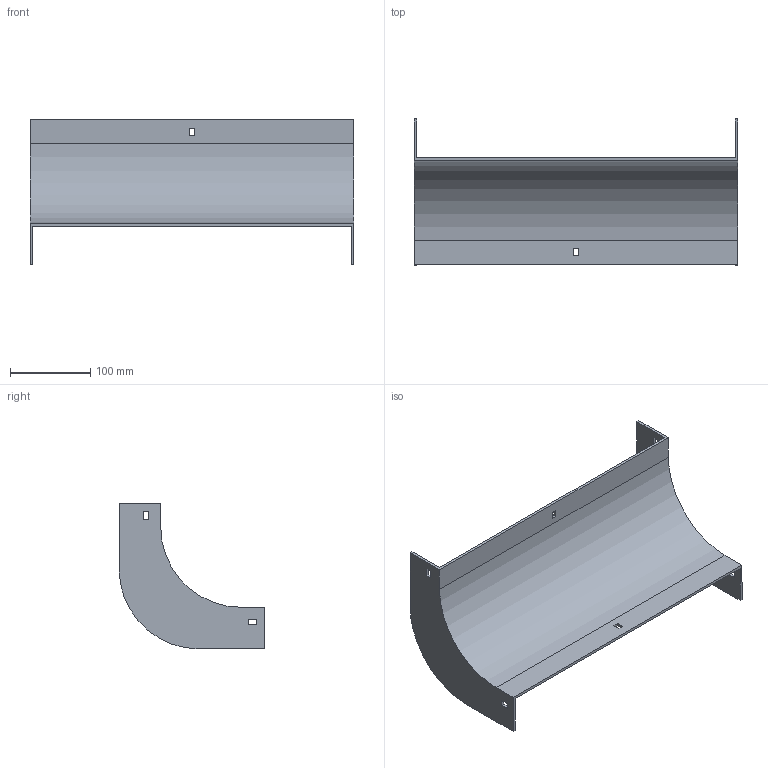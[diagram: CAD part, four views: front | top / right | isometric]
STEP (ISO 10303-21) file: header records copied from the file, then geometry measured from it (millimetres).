
FILE_DESCRIPTION (( 'STEP AP214' ), '1' );
FILE_NAME ('33F1B400.step', '2025-02-21T12:52:31', ( '' ), ( '' ), 'SwSTEP 2.0', 'SolidWorks 2023', '' );
FILE_SCHEMA (( 'AUTOMOTIVE_DESIGN' ));
Length unit declared in the file: millimetre
Products named in the file (1): 33F1B400
Bounding box: 404 x 182 x 182 mm (x, y, z)
Volume: 417630.2 mm3; surface area: 245074.2 mm2
Topology: 1 solids, 1 shells, 42 faces, 120 edges, 80 vertices
Faces by surface type: plane 38, cylinder 4
Entity records: 1399 total; most frequent: CARTESIAN_POINT 243, ORIENTED_EDGE 240, DIRECTION 214, EDGE_CURVE 120, LINE 112, VECTOR 112, VERTEX_POINT 80, EDGE_LOOP 54
